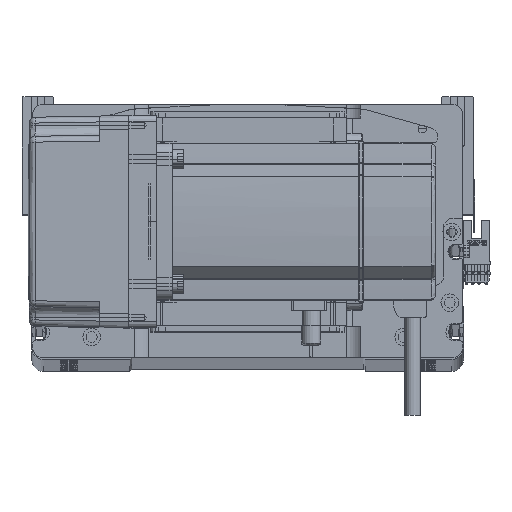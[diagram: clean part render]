
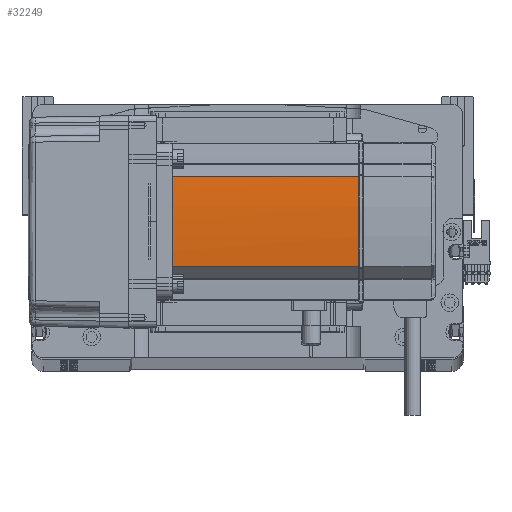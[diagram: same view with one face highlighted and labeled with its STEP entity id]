
A CAD part, top view. The second image highlights one B-rep face of the part: STEP entity #32249.
In plain terms, the highlighted cylindrical face has radius 270 mm (diameter 540 mm), a partial arc.
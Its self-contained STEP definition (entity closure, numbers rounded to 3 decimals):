
#449 = DIRECTION ( 'NONE',  ( -1., 0., 0. ) ) ;
#1903 = ORIENTED_EDGE ( 'NONE', *, *, #24506, .T. ) ;
#3026 = EDGE_CURVE ( 'NONE', #31655, #14058, #5989, .T. ) ;
#3398 = VECTOR ( 'NONE', #35762, 1000. ) ;
#4384 = CARTESIAN_POINT ( 'NONE',  ( 40., 0.042, 134. ) ) ;
#5024 = VERTEX_POINT ( 'NONE', #34753 ) ;
#5983 = CIRCLE ( 'NONE', #28349, 270. ) ;
#5989 = CIRCLE ( 'NONE', #44116, 270. ) ;
#7600 = CARTESIAN_POINT ( 'NONE',  ( -230., 0., 134. ) ) ;
#7800 = EDGE_CURVE ( 'NONE', #21741, #34231, #19474, .T. ) ;
#9779 = CARTESIAN_POINT ( 'NONE',  ( -230., 0., 134. ) ) ;
#10417 = ORIENTED_EDGE ( 'NONE', *, *, #7800, .T. ) ;
#11843 = EDGE_CURVE ( 'NONE', #5024, #34231, #5983, .T. ) ;
#14058 = VERTEX_POINT ( 'NONE', #28024 ) ;
#14324 = CARTESIAN_POINT ( 'NONE',  ( 39.042, -22.724, 58. ) ) ;
#14589 = CYLINDRICAL_SURFACE ( 'NONE', #27299, 270. ) ;
#15219 = EDGE_CURVE ( 'NONE', #5024, #31655, #33981, .T. ) ;
#16964 = DIRECTION ( 'NONE',  ( 0., 0., -1. ) ) ;
#19474 = LINE ( 'NONE', #14324, #28920 ) ;
#21741 = VERTEX_POINT ( 'NONE', #31603 ) ;
#22191 = EDGE_CURVE ( 'NONE', #38038, #14058, #45125, .T. ) ;
#24001 = FACE_OUTER_BOUND ( 'NONE', #42937, .T. ) ;
#24506 = EDGE_CURVE ( 'NONE', #38038, #21741, #43590, .T. ) ;
#27299 = AXIS2_PLACEMENT_3D ( 'NONE', #39145, #44009, #49058 ) ;
#27969 = ORIENTED_EDGE ( 'NONE', *, *, #22191, .F. ) ;
#28024 = CARTESIAN_POINT ( 'NONE',  ( 40., 0.127, 134. ) ) ;
#28160 = CARTESIAN_POINT ( 'NONE',  ( 40., -0.042, 134. ) ) ;
#28349 = AXIS2_PLACEMENT_3D ( 'NONE', #48446, #43567, #34639 ) ;
#28920 = VECTOR ( 'NONE', #33050, 1000. ) ;
#31603 = CARTESIAN_POINT ( 'NONE',  ( 39.042, -22.724, 134. ) ) ;
#31655 = VERTEX_POINT ( 'NONE', #44095 ) ;
#32249 = ADVANCED_FACE ( 'NONE', ( #24001 ), #14589, .T. ) ;
#33050 = DIRECTION ( 'NONE',  ( 0., 0., -1. ) ) ;
#33290 = AXIS2_PLACEMENT_3D ( 'NONE', #9779, #37863, #449 ) ;
#33981 = LINE ( 'NONE', #54423, #3398 ) ;
#34231 = VERTEX_POINT ( 'NONE', #42939 ) ;
#34639 = DIRECTION ( 'NONE',  ( -1., 0., 0. ) ) ;
#34753 = CARTESIAN_POINT ( 'NONE',  ( 39.042, 22.724, 39. ) ) ;
#35762 = DIRECTION ( 'NONE',  ( 0., 0., 1. ) ) ;
#37863 = DIRECTION ( 'NONE',  ( 0., 0., -1. ) ) ;
#38038 = VERTEX_POINT ( 'NONE', #57637 ) ;
#39145 = CARTESIAN_POINT ( 'NONE',  ( -230., 0., 58. ) ) ;
#42937 = EDGE_LOOP ( 'NONE', ( #10417, #59823, #56463, #46181, #27969, #1903 ) ) ;
#42939 = CARTESIAN_POINT ( 'NONE',  ( 39.042, -22.724, 39. ) ) ;
#43567 = DIRECTION ( 'NONE',  ( 0., 0., -1. ) ) ;
#43590 = CIRCLE ( 'NONE', #33290, 270. ) ;
#44009 = DIRECTION ( 'NONE',  ( 0., 0., -1. ) ) ;
#44037 = DIRECTION ( 'NONE',  ( -1., 0., 0. ) ) ;
#44095 = CARTESIAN_POINT ( 'NONE',  ( 39.042, 22.724, 134. ) ) ;
#44116 = AXIS2_PLACEMENT_3D ( 'NONE', #7600, #16964, #44037 ) ;
#45125 = B_SPLINE_CURVE_WITH_KNOTS ( 'NONE', 3,
 ( #60241, #28160, #4384, #50518 ),
 .UNSPECIFIED., .F., .F.,
 ( 4, 4 ),
 ( 0., 1. ),
 .UNSPECIFIED. ) ;
#46181 = ORIENTED_EDGE ( 'NONE', *, *, #3026, .T. ) ;
#48446 = CARTESIAN_POINT ( 'NONE',  ( -230., 0., 39. ) ) ;
#49058 = DIRECTION ( 'NONE',  ( -1., 0., 0. ) ) ;
#50518 = CARTESIAN_POINT ( 'NONE',  ( 40., 0.127, 134. ) ) ;
#54423 = CARTESIAN_POINT ( 'NONE',  ( 39.042, 22.724, 58. ) ) ;
#56463 = ORIENTED_EDGE ( 'NONE', *, *, #15219, .T. ) ;
#57637 = CARTESIAN_POINT ( 'NONE',  ( 40., -0.127, 134. ) ) ;
#59823 = ORIENTED_EDGE ( 'NONE', *, *, #11843, .F. ) ;
#60241 = CARTESIAN_POINT ( 'NONE',  ( 40., -0.127, 134. ) ) ;
